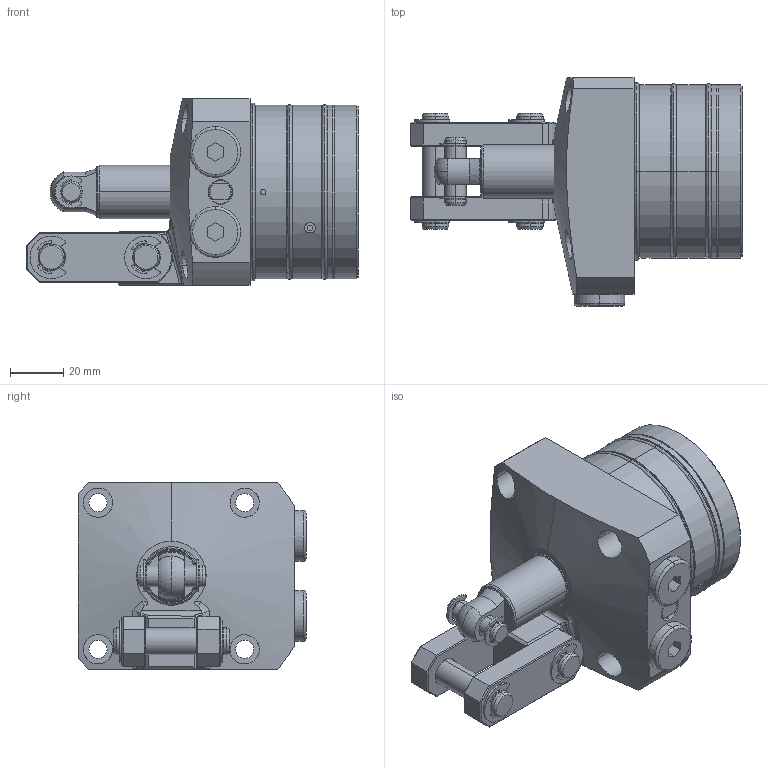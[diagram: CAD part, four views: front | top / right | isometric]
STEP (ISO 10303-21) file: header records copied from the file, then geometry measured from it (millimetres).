
FILE_DESCRIPTION(/* description */ (''),/* implementation_level */ '2;1');
FILE_NAME(/* name */ 'KTPW65-LE.stp',/* time_stamp */ '2022-11-19T16:05:42+08:00',/* author */ (''),/* organization */ (''),/* preprocessor_version */ 'ST-DEVELOPER v16.7',/* originating_system */ 'SIEMENS PLM Software NX 12.0',/* authorisation */ '');
FILE_SCHEMA (('AP203_CONFIGURATION_CONTROLLED_3D_DESIGN_OF_MECHANICAL_PARTS_AND_ASSEMBLIES_MIM_LF { 1 0 10303 403 2 1 2}'));
Length unit declared in the file: millimetre
Products named in the file (11): KTPW65-LE-03; KTPW65-LE-01; KTPW65-LE-09; KTPW65-LE-08; KTPW65-LE-010; KTPW65-LE-02; KTPW65-LE-04; KTPW65-LE-06; KTPW65-LE-05; KTPW65-LE-07; LKW0651-CLE_step
Assembly tree (19 placements, depth 2):
  LKW0651-CLE_step
    KTPW65-LE-07  x4
    KTPW65-LE-05  x2
    KTPW65-LE-06
    KTPW65-LE-04  x2
    KTPW65-LE-02
    KTPW65-LE-010  x3
    KTPW65-LE-08  x2
    KTPW65-LE-09  x2
    KTPW65-LE-01
    KTPW65-LE-03
Bounding box: 124.5 x 85.5 x 70 mm (x, y, z)
Volume: 309697.6 mm3; surface area: 63918.5 mm2
Topology: 22 solids, 22 shells, 690 faces, 1596 edges, 988 vertices
Faces by surface type: cylinder 266, plane 205, torus 128, cone 79, bspline 10, sphere 2
Full cylindrical faces by diameter (mm): 65 x1
Entity records: 14530 total; most frequent: CARTESIAN_POINT 3176, DIRECTION 2260, ORIENTED_EDGE 1912, EDGE_CURVE 956, AXIS2_PLACEMENT_3D 946, VERTEX_POINT 588, CIRCLE 511, EDGE_LOOP 480
